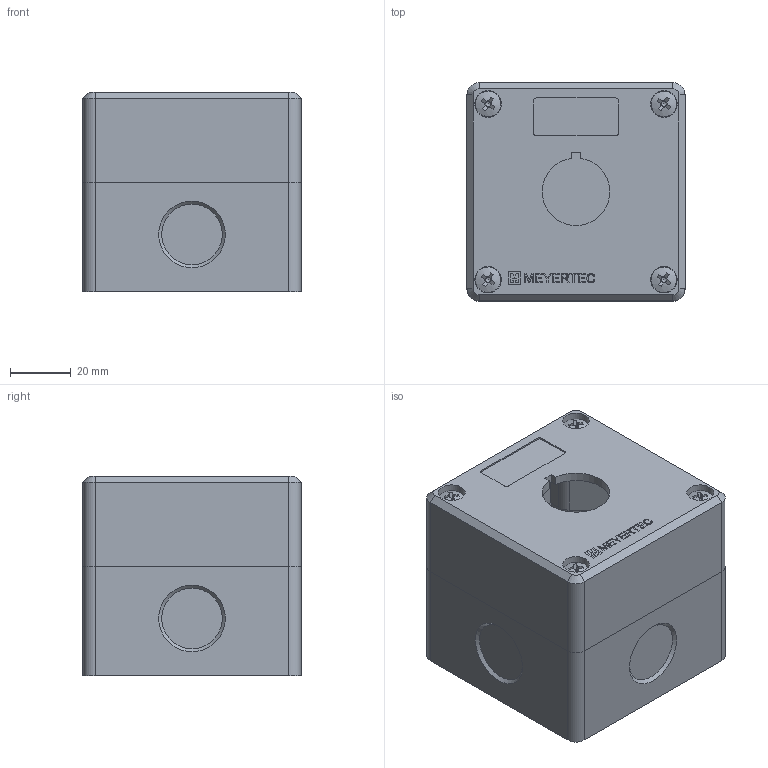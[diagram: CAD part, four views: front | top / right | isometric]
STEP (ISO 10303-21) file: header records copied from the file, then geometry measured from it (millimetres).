
FILE_DESCRIPTION (( 'STEP AP214' ), '1' );
FILE_NAME ('3D-斁麧錪 MTB2-PE1Y.STEP', '2020-06-23T12:42:55', ( '' ), ( '' ), 'SwSTEP 2.0', 'SolidWorks 2015', '' );
FILE_SCHEMA (( 'AUTOMOTIVE_DESIGN' ));
Length unit declared in the file: millimetre
Products named in the file (4): MTB2-PE1Y_瞂贂; MTB2-PE1_íèç; 3D-斁麧錪 MTB2-PE1Y; ISO 7047 - M4 x 40 - Z --- 40N_ISO 7047 - M4 x 40 - Z --- 40N
Assembly tree (6 placements, depth 2):
  3D-斁麧錪 MTB2-PE1Y
    MTB2-PE1_íèç
    MTB2-PE1Y_瞂贂
    ISO 7047 - M4 x 40 - Z --- 40N_ISO 7047 - M4 x 40 - Z --- 40N  x4
Bounding box: 72 x 72 x 66.02 mm (x, y, z)
Volume: 88662.1 mm3; surface area: 79442.4 mm2
Topology: 6 solids, 6 shells, 483 faces, 1258 edges, 822 vertices
Faces by surface type: plane 320, cylinder 99, cone 36, bspline 20, sphere 4, torus 4
Full cylindrical faces by diameter (mm): 3.8 x8, 4 x4, 7.8 x4, 8.4 x4, 8.8 x4, 9.8 x2
Entity records: 14851 total; most frequent: CARTESIAN_POINT 3391, ORIENTED_EDGE 2042, DIRECTION 1982, EDGE_CURVE 1021, LINE 746, VECTOR 746, VERTEX_POINT 691, AXIS2_PLACEMENT_3D 618
